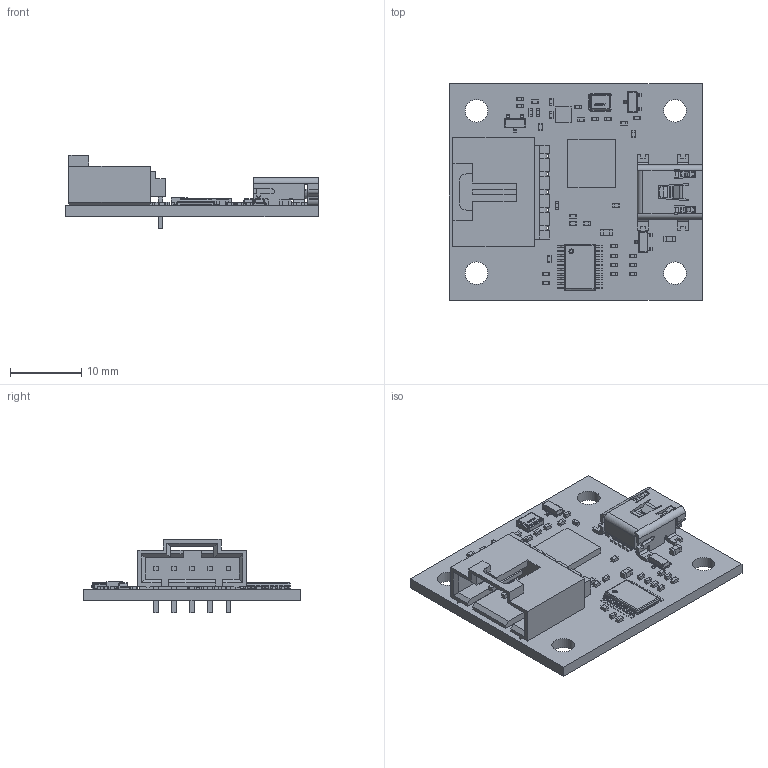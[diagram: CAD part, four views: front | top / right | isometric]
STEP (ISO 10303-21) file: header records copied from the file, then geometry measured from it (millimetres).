
FILE_DESCRIPTION(('Open CASCADE Model'),'2;1');
FILE_NAME('Open CASCADE Shape Model','2021-02-05T14:00:19',('Author'),( 'Open CASCADE'),'Open CASCADE STEP processor 6.8','Open CASCADE 6.8' ,'Unknown');
FILE_SCHEMA(('AUTOMOTIVE_DESIGN { 1 0 10303 214 1 1 1 1 }'));
Length unit declared in the file: millimetre
Products named in the file (73): PCB; Board; U6; User_Library-SOT-23-1; User_Library-SOT-23-1_1_1; User_Library-SOT-23-1_2_1; User_Library-SOT-23-1_3_1; User_Library-SOT-23-1_4_1; User_Library-SOT-23-1_5_1; R14; 5178808768; Extruded; 5178808576; R13; R12; C7; C2; 5178809152; 5178808960; U5; U4; User_Library-TSSOP-20-1; User_Library-TSSOP-20-1_TSSOP-20_Body_1; User_Library-TSSOP-20-1_TSSOP-20_Pins_1; U3; 5178806656; R11; 5178808384; 5178808192; R10; R9; R8; R7; R6; R5; R3; O1; User_Library-ABM8G; J4; 705530004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
Assembly tree (132 placements, depth 4):
  PCB
    Board
    U6
      User_Library-SOT-23-1
        User_Library-SOT-23-1_1_1
        User_Library-SOT-23-1_2_1
        User_Library-SOT-23-1_3_1
        User_Library-SOT-23-1_4_1
        User_Library-SOT-23-1_5_1
    R14
      5178808768
        Extruded
      5178808576
        Extruded
    R13
      5178808768
        Extruded
      5178808576
        Extruded
    R12
      5178808768
        Extruded
      5178808576
        Extruded
    C7
      5178808768
        Extruded
      5178808576
        Extruded
    C2
      5178809152
        Extruded
      5178808960
        Extruded
    U5
      User_Library-SOT-23-1
        User_Library-SOT-23-1_1_1
        User_Library-SOT-23-1_2_1
        User_Library-SOT-23-1_3_1
        User_Library-SOT-23-1_4_1
        User_Library-SOT-23-1_5_1
    U4
      User_Library-TSSOP-20-1
        User_Library-TSSOP-20-1_TSSOP-20_Body_1
        User_Library-TSSOP-20-1_TSSOP-20_Pins_1
    U3
      5178806656
        Extruded
    R11
      5178808384
        Extruded
      5178808192
        Extruded
    R10
      5178808768
        Extruded
      5178808576
        Extruded
    R9
      5178808768
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Bounding box: 35.63 x 30.48 x 10.29 mm (x, y, z)
Volume: 2517.4 mm3; surface area: 4610.9 mm2
Topology: 87 solids, 87 shells, 1616 faces, 4001 edges, 2560 vertices
Faces by surface type: plane 1155, cylinder 338, bspline 117, torus 4, sphere 2
Full cylindrical faces by diameter (mm): 0.965 x5, 1 x2, 3.175 x4
Entity records: 41607 total; most frequent: CARTESIAN_POINT 10877, ORIENTED_EDGE 5624, DIRECTION 4927, EDGE_CURVE 2812, LINE 2005, VECTOR 2005, VERTEX_POINT 1778, AXIS2_PLACEMENT_3D 1461
